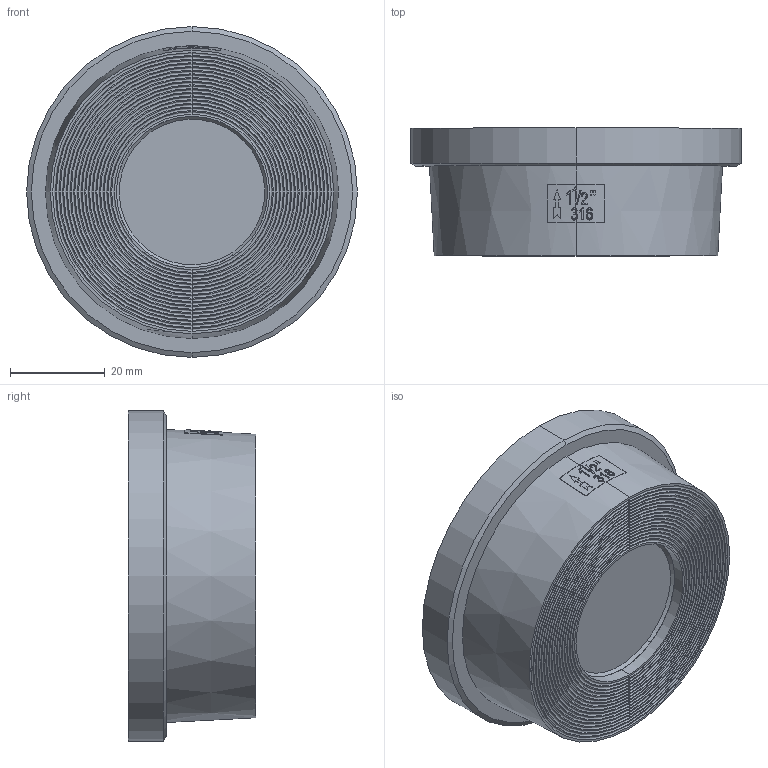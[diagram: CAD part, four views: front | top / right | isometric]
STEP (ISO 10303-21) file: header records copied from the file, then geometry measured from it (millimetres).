
FILE_DESCRIPTION (( 'STEP AP203' ), '1' );
FILE_NAME ('MV-53 DN32-000.STEP', '2021-10-14T05:39:50', ( '' ), ( '' ), 'SwSTEP 2.0', 'SolidWorks 2012', '' );
FILE_SCHEMA (( 'CONFIG_CONTROL_DESIGN' ));
Length unit declared in the file: millimetre
Products named in the file (5): MV-53  DN32-000; DN32  SPRING; DN32  SPRING COVER; DN32  DISC; DN32  BODY
Assembly tree (4 placements, depth 2):
  MV-53  DN32-000
    DN32  DISC
    DN32  BODY
    DN32  SPRING COVER
    DN32  SPRING
Bounding box: 70 x 27 x 70 mm (x, y, z)
Volume: 37379.5 mm3; surface area: 24532.3 mm2
Topology: 4 solids, 4 shells, 330 faces, 829 edges, 546 vertices
Faces by surface type: plane 131, torus 66, cylinder 55, bspline 51, cone 27
Entity records: 15186 total; most frequent: CARTESIAN_POINT 6978, ORIENTED_EDGE 1658, DIRECTION 1565, EDGE_CURVE 829, AXIS2_PLACEMENT_3D 661, VERTEX_POINT 546, CIRCLE 375, EDGE_LOOP 373
